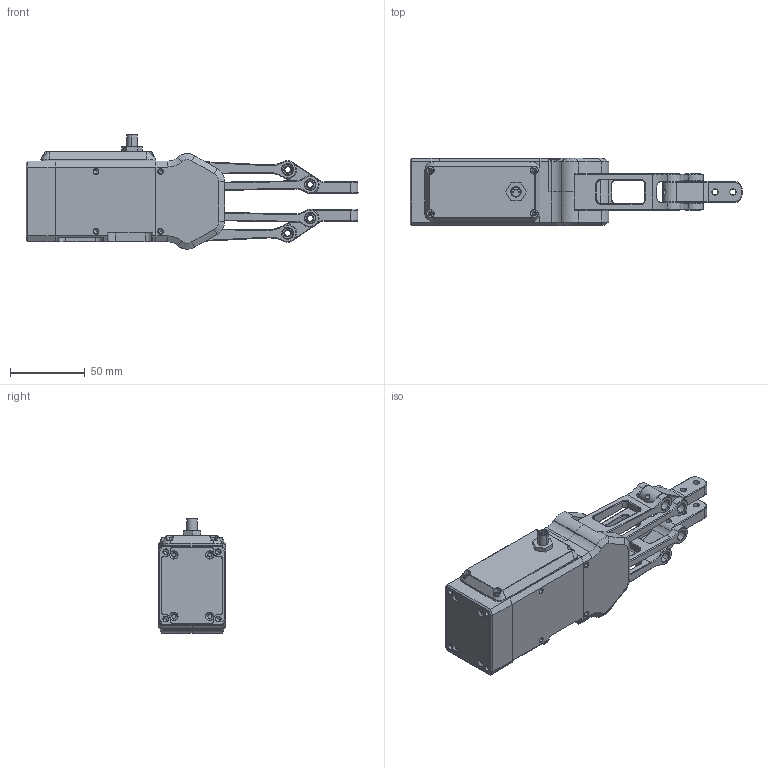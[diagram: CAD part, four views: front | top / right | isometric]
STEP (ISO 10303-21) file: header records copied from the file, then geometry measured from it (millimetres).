
FILE_DESCRIPTION(('CATIA V5 STEP Exchange'),'2;1');
FILE_NAME('F:\工作文件GP\EFG 对外资料\EFG对外资料\EFG-100\EFG-100闭合.stp','2019-07-08T02:46:26+00:00',('none'),('none'),'CATIA Version 5 Release 20 GA (IN-10)','CATIA V5 STEP AP203','none');
FILE_SCHEMA(('CONFIG_CONTROL_DESIGN'));
Length unit declared in the file: millimetre
Products named in the file (1): 产品1
Assembly tree (13 placements, depth 2):
  产品1
    #58
    #4892
    #8587
    #12165
    #17157
    #21404  x2
    #24412  x2
    #27038  x2
    #28713
    #29355
Bounding box: 221.79 x 45 x 76.39 mm (x, y, z)
Volume: 290099.4 mm3; surface area: 98691.3 mm2
Topology: 13 solids, 13 shells, 1250 faces, 3157 edges, 1930 vertices
Faces by surface type: plane 464, cylinder 433, cone 327, bspline 16, torus 6, extrusion 4
Entity records: 30681 total; most frequent: CARTESIAN_POINT 7377, ORIENTED_EDGE 5092, DIRECTION 4013, EDGE_CURVE 2546, AXIS2_PLACEMENT_3D 1712, VERTEX_POINT 1594, VECTOR 1475, LINE 1471
